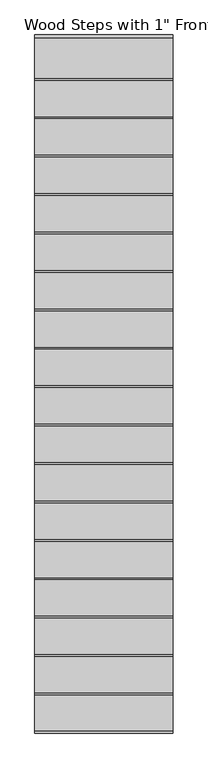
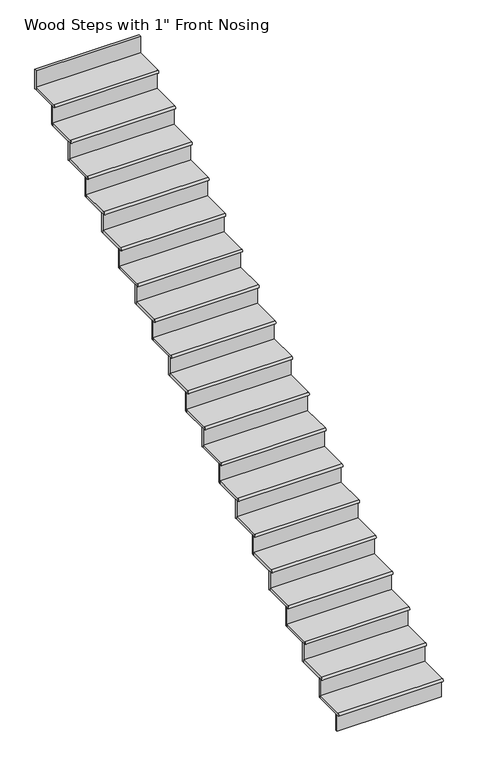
"""IFC4 building model written with IfcOpenShell, lengths in millimetres: stair flight geometry."""

from ifc_helpers import new_model, si_unit, point, frame, frame_2d, origin, place, context, project, spatial, polyline, circle_curve, trimmed, segment, composite_curve, outline, extrude, source, transform, mapped, element, save


def stair_flight_4013ba85(model_context):
    return source(origin(), model_context, "Body", "SweptSolid", [
        extrude(outline(composite_curve([segment(polyline([(-5446.3539462, 196.5157895), (-5179.6539462, 196.5157895), (-5179.6539462, 171.1157895), (-5446.3539462, 171.1157895)]), True, "CONTINUOUS"), segment(trimmed(circle_curve(frame_2d((-5446.3539462, 183.8157895)), 12.7), [point((-5446.3539462, 171.1157895))], [point((-5446.3539462, 196.5157895))], False, "CARTESIAN"), True, "CONTINUOUS")], self_intersect=False)), frame((-11123.1379486, 0.0, 0.0), z_axis=(1.0, 0.0, 0.0), x_axis=(0.0, 1.0, 0.0)), (0.0, 0.0, 1.0), 914.4),
        extrude(outline(polyline([(-10208.7379486, -5414.6039462), (-10208.7379486, -5433.6539462), (-11123.1379486, -5433.6539462), (-11123.1379486, -5414.6039462), (-10208.7379486, -5414.6039462)])), frame((0.0, 0.0, 19.05), z_axis=(0.0, 0.0, 1.0), x_axis=(1.0, 0.0, 0.0)), (0.0, 0.0, 1.0), 152.0657895),
        extrude(outline(polyline([(-10208.7379486, -5160.6039462), (-10208.7379486, -5179.6539462), (-11123.1379486, -5179.6539462), (-11123.1379486, -5160.6039462), (-10208.7379486, -5160.6039462)])), frame((0.0, 0.0, 171.1157895), z_axis=(0.0, 0.0, 1.0), x_axis=(1.0, 0.0, 0.0)), (0.0, 0.0, 1.0), 177.4657895),
        extrude(outline(composite_curve([segment(polyline([(-5192.3539462, 373.9815789), (-4925.6539462, 373.9815789), (-4925.6539462, 348.5815789), (-5192.3539462, 348.5815789)]), True, "CONTINUOUS"), segment(trimmed(circle_curve(frame_2d((-5192.3539462, 361.2815789)), 12.7), [point((-5192.3539462, 348.5815789))], [point((-5192.3539462, 373.9815789))], False, "CARTESIAN"), True, "CONTINUOUS")], self_intersect=False)), frame((-11123.1379486, 0.0, 0.0), z_axis=(1.0, 0.0, 0.0), x_axis=(0.0, 1.0, 0.0)), (0.0, 0.0, 1.0), 914.4),
        extrude(outline(polyline([(-10208.7379486, -4906.6039462), (-10208.7379486, -4925.6539462), (-11123.1379486, -4925.6539462), (-11123.1379486, -4906.6039462), (-10208.7379486, -4906.6039462)])), frame((0.0, 0.0, 348.5815789), z_axis=(0.0, 0.0, 1.0), x_axis=(1.0, 0.0, 0.0)), (0.0, 0.0, 1.0), 177.4657895),
        extrude(outline(composite_curve([segment(polyline([(-4938.3539462, 551.4473684), (-4671.6539462, 551.4473684), (-4671.6539462, 526.0473684), (-4938.3539462, 526.0473684)]), True, "CONTINUOUS"), segment(trimmed(circle_curve(frame_2d((-4938.3539462, 538.7473684)), 12.7), [point((-4938.3539462, 526.0473684))], [point((-4938.3539462, 551.4473684))], False, "CARTESIAN"), True, "CONTINUOUS")], self_intersect=False)), frame((-11123.1379486, 0.0, 0.0), z_axis=(1.0, 0.0, 0.0), x_axis=(0.0, 1.0, 0.0)), (0.0, 0.0, 1.0), 914.4),
        extrude(outline(polyline([(-10208.7379486, -4652.6039462), (-10208.7379486, -4671.6539462), (-11123.1379486, -4671.6539462), (-11123.1379486, -4652.6039462), (-10208.7379486, -4652.6039462)])), frame((0.0, 0.0, 526.0473684), z_axis=(0.0, 0.0, 1.0), x_axis=(1.0, 0.0, 0.0)), (0.0, 0.0, 1.0), 177.4657895),
        extrude(outline(composite_curve([segment(polyline([(-4684.3539462, 728.9131579), (-4417.6539462, 728.9131579), (-4417.6539462, 703.5131579), (-4684.3539462, 703.5131579)]), True, "CONTINUOUS"), segment(trimmed(circle_curve(frame_2d((-4684.3539462, 716.2131579)), 12.7), [point((-4684.3539462, 703.5131579))], [point((-4684.3539462, 728.9131579))], False, "CARTESIAN"), True, "CONTINUOUS")], self_intersect=False)), frame((-11123.1379486, 0.0, 0.0), z_axis=(1.0, 0.0, 0.0), x_axis=(0.0, 1.0, 0.0)), (0.0, 0.0, 1.0), 914.4),
        extrude(outline(polyline([(-10208.7379486, -4398.6039462), (-10208.7379486, -4417.6539462), (-11123.1379486, -4417.6539462), (-11123.1379486, -4398.6039462), (-10208.7379486, -4398.6039462)])), frame((0.0, 0.0, 703.5131579), z_axis=(0.0, 0.0, 1.0), x_axis=(1.0, 0.0, 0.0)), (0.0, 0.0, 1.0), 177.4657895),
        extrude(outline(composite_curve([segment(polyline([(-4430.3539462, 906.3789474), (-4163.6539462, 906.3789474), (-4163.6539462, 880.9789474), (-4430.3539462, 880.9789474)]), True, "CONTINUOUS"), segment(trimmed(circle_curve(frame_2d((-4430.3539462, 893.6789474)), 12.7), [point((-4430.3539462, 880.9789474))], [point((-4430.3539462, 906.3789474))], False, "CARTESIAN"), True, "CONTINUOUS")], self_intersect=False)), frame((-11123.1379486, 0.0, 0.0), z_axis=(1.0, 0.0, 0.0), x_axis=(0.0, 1.0, 0.0)), (0.0, 0.0, 1.0), 914.4),
        extrude(outline(polyline([(-10208.7379486, -4144.6039462), (-10208.7379486, -4163.6539462), (-11123.1379486, -4163.6539462), (-11123.1379486, -4144.6039462), (-10208.7379486, -4144.6039462)])), frame((0.0, 0.0, 880.9789474), z_axis=(0.0, 0.0, 1.0), x_axis=(1.0, 0.0, 0.0)), (0.0, 0.0, 1.0), 177.4657895),
        extrude(outline(composite_curve([segment(polyline([(-4176.3539462, 1083.8447368), (-3909.6539462, 1083.8447368), (-3909.6539462, 1058.4447368), (-4176.3539462, 1058.4447368)]), True, "CONTINUOUS"), segment(trimmed(circle_curve(frame_2d((-4176.3539462, 1071.1447368)), 12.7), [point((-4176.3539462, 1058.4447368))], [point((-4176.3539462, 1083.8447368))], False, "CARTESIAN"), True, "CONTINUOUS")], self_intersect=False)), frame((-11123.1379486, 0.0, 0.0), z_axis=(1.0, 0.0, 0.0), x_axis=(0.0, 1.0, 0.0)), (0.0, 0.0, 1.0), 914.4),
        extrude(outline(polyline([(-10208.7379486, -3890.6039462), (-10208.7379486, -3909.6539462), (-11123.1379486, -3909.6539462), (-11123.1379486, -3890.6039462), (-10208.7379486, -3890.6039462)])), frame((0.0, 0.0, 1058.4447368), z_axis=(0.0, 0.0, 1.0), x_axis=(1.0, 0.0, 0.0)), (0.0, 0.0, 1.0), 177.4657895),
        extrude(outline(composite_curve([segment(polyline([(-3922.3539462, 1261.3105263), (-3655.6539462, 1261.3105263), (-3655.6539462, 1235.9105263), (-3922.3539462, 1235.9105263)]), True, "CONTINUOUS"), segment(trimmed(circle_curve(frame_2d((-3922.3539462, 1248.6105263)), 12.7), [point((-3922.3539462, 1235.9105263))], [point((-3922.3539462, 1261.3105263))], False, "CARTESIAN"), True, "CONTINUOUS")], self_intersect=False)), frame((-11123.1379486, 0.0, 0.0), z_axis=(1.0, 0.0, 0.0), x_axis=(0.0, 1.0, 0.0)), (0.0, 0.0, 1.0), 914.4),
        extrude(outline(polyline([(-10208.7379486, -3636.6039462), (-10208.7379486, -3655.6539462), (-11123.1379486, -3655.6539462), (-11123.1379486, -3636.6039462), (-10208.7379486, -3636.6039462)])), frame((0.0, 0.0, 1235.9105263), z_axis=(0.0, 0.0, 1.0), x_axis=(1.0, 0.0, 0.0)), (0.0, 0.0, 1.0), 177.4657895),
        extrude(outline(composite_curve([segment(polyline([(-3668.3539462, 1438.7763158), (-3401.6539462, 1438.7763158), (-3401.6539462, 1413.3763158), (-3668.3539462, 1413.3763158)]), True, "CONTINUOUS"), segment(trimmed(circle_curve(frame_2d((-3668.3539462, 1426.0763158)), 12.7), [point((-3668.3539462, 1413.3763158))], [point((-3668.3539462, 1438.7763158))], False, "CARTESIAN"), True, "CONTINUOUS")], self_intersect=False)), frame((-11123.1379486, 0.0, 0.0), z_axis=(1.0, 0.0, 0.0), x_axis=(0.0, 1.0, 0.0)), (0.0, 0.0, 1.0), 914.4),
        extrude(outline(polyline([(-10208.7379486, -3382.6039462), (-10208.7379486, -3401.6539462), (-11123.1379486, -3401.6539462), (-11123.1379486, -3382.6039462), (-10208.7379486, -3382.6039462)])), frame((0.0, 0.0, 1413.3763158), z_axis=(0.0, 0.0, 1.0), x_axis=(1.0, 0.0, 0.0)), (0.0, 0.0, 1.0), 177.4657895),
        extrude(outline(composite_curve([segment(polyline([(-3414.3539462, 1616.2421053), (-3147.6539462, 1616.2421053), (-3147.6539462, 1590.8421053), (-3414.3539462, 1590.8421053)]), True, "CONTINUOUS"), segment(trimmed(circle_curve(frame_2d((-3414.3539462, 1603.5421053)), 12.7), [point((-3414.3539462, 1590.8421053))], [point((-3414.3539462, 1616.2421053))], False, "CARTESIAN"), True, "CONTINUOUS")], self_intersect=False)), frame((-11123.1379486, 0.0, 0.0), z_axis=(1.0, 0.0, 0.0), x_axis=(0.0, 1.0, 0.0)), (0.0, 0.0, 1.0), 914.4),
        extrude(outline(polyline([(-10208.7379486, -3128.6039462), (-10208.7379486, -3147.6539462), (-11123.1379486, -3147.6539462), (-11123.1379486, -3128.6039462), (-10208.7379486, -3128.6039462)])), frame((0.0, 0.0, 1590.8421053), z_axis=(0.0, 0.0, 1.0), x_axis=(1.0, 0.0, 0.0)), (0.0, 0.0, 1.0), 177.4657895),
        extrude(outline(composite_curve([segment(polyline([(-3160.3539462, 1793.7078947), (-2893.6539462, 1793.7078947), (-2893.6539462, 1768.3078947), (-3160.3539462, 1768.3078947)]), True, "CONTINUOUS"), segment(trimmed(circle_curve(frame_2d((-3160.3539462, 1781.0078947)), 12.7), [point((-3160.3539462, 1768.3078947))], [point((-3160.3539462, 1793.7078947))], False, "CARTESIAN"), True, "CONTINUOUS")], self_intersect=False)), frame((-11123.1379486, 0.0, 0.0), z_axis=(1.0, 0.0, 0.0), x_axis=(0.0, 1.0, 0.0)), (0.0, 0.0, 1.0), 914.4),
        extrude(outline(polyline([(-10208.7379486, -2874.6039462), (-10208.7379486, -2893.6539462), (-11123.1379486, -2893.6539462), (-11123.1379486, -2874.6039462), (-10208.7379486, -2874.6039462)])), frame((0.0, 0.0, 1768.3078947), z_axis=(0.0, 0.0, 1.0), x_axis=(1.0, 0.0, 0.0)), (0.0, 0.0, 1.0), 177.4657895),
        extrude(outline(composite_curve([segment(polyline([(-2906.3539462, 1971.1736842), (-2639.6539462, 1971.1736842), (-2639.6539462, 1945.7736842), (-2906.3539462, 1945.7736842)]), True, "CONTINUOUS"), segment(trimmed(circle_curve(frame_2d((-2906.3539462, 1958.4736842)), 12.7), [point((-2906.3539462, 1945.7736842))], [point((-2906.3539462, 1971.1736842))], False, "CARTESIAN"), True, "CONTINUOUS")], self_intersect=False)), frame((-11123.1379486, 0.0, 0.0), z_axis=(1.0, 0.0, 0.0), x_axis=(0.0, 1.0, 0.0)), (0.0, 0.0, 1.0), 914.4),
        extrude(outline(polyline([(-10208.7379486, -2620.6039462), (-10208.7379486, -2639.6539462), (-11123.1379486, -2639.6539462), (-11123.1379486, -2620.6039462), (-10208.7379486, -2620.6039462)])), frame((0.0, 0.0, 1945.7736842), z_axis=(0.0, 0.0, 1.0), x_axis=(1.0, 0.0, 0.0)), (0.0, 0.0, 1.0), 177.4657895),
        extrude(outline(composite_curve([segment(polyline([(-2652.3539462, 2148.6394737), (-2385.6539462, 2148.6394737), (-2385.6539462, 2123.2394737), (-2652.3539462, 2123.2394737)]), True, "CONTINUOUS"), segment(trimmed(circle_curve(frame_2d((-2652.3539462, 2135.9394737)), 12.7), [point((-2652.3539462, 2123.2394737))], [point((-2652.3539462, 2148.6394737))], False, "CARTESIAN"), True, "CONTINUOUS")], self_intersect=False)), frame((-11123.1379486, 0.0, 0.0), z_axis=(1.0, 0.0, 0.0), x_axis=(0.0, 1.0, 0.0)), (0.0, 0.0, 1.0), 914.4),
        extrude(outline(polyline([(-10208.7379486, -2366.6039462), (-10208.7379486, -2385.6539462), (-11123.1379486, -2385.6539462), (-11123.1379486, -2366.6039462), (-10208.7379486, -2366.6039462)])), frame((0.0, 0.0, 2123.2394737), z_axis=(0.0, 0.0, 1.0), x_axis=(1.0, 0.0, 0.0)), (0.0, 0.0, 1.0), 177.4657895),
        extrude(outline(composite_curve([segment(polyline([(-2398.3539462, 2326.1052632), (-2131.6539462, 2326.1052632), (-2131.6539462, 2300.7052632), (-2398.3539462, 2300.7052632)]), True, "CONTINUOUS"), segment(trimmed(circle_curve(frame_2d((-2398.3539462, 2313.4052632)), 12.7), [point((-2398.3539462, 2300.7052632))], [point((-2398.3539462, 2326.1052632))], False, "CARTESIAN"), True, "CONTINUOUS")], self_intersect=False)), frame((-11123.1379486, 0.0, 0.0), z_axis=(1.0, 0.0, 0.0), x_axis=(0.0, 1.0, 0.0)), (0.0, 0.0, 1.0), 914.4),
        extrude(outline(polyline([(-10208.7379486, -2112.6039462), (-10208.7379486, -2131.6539462), (-11123.1379486, -2131.6539462), (-11123.1379486, -2112.6039462), (-10208.7379486, -2112.6039462)])), frame((0.0, 0.0, 2300.7052632), z_axis=(0.0, 0.0, 1.0), x_axis=(1.0, 0.0, 0.0)), (0.0, 0.0, 1.0), 177.4657895),
        extrude(outline(composite_curve([segment(polyline([(-2144.3539462, 2503.5710526), (-1877.6539462, 2503.5710526), (-1877.6539462, 2478.1710526), (-2144.3539462, 2478.1710526)]), True, "CONTINUOUS"), segment(trimmed(circle_curve(frame_2d((-2144.3539462, 2490.8710526)), 12.7), [point((-2144.3539462, 2478.1710526))], [point((-2144.3539462, 2503.5710526))], False, "CARTESIAN"), True, "CONTINUOUS")], self_intersect=False)), frame((-11123.1379486, 0.0, 0.0), z_axis=(1.0, 0.0, 0.0), x_axis=(0.0, 1.0, 0.0)), (0.0, 0.0, 1.0), 914.4),
        extrude(outline(polyline([(-10208.7379486, -1858.6039462), (-10208.7379486, -1877.6539462), (-11123.1379486, -1877.6539462), (-11123.1379486, -1858.6039462), (-10208.7379486, -1858.6039462)])), frame((0.0, 0.0, 2478.1710526), z_axis=(0.0, 0.0, 1.0), x_axis=(1.0, 0.0, 0.0)), (0.0, 0.0, 1.0), 177.4657895),
        extrude(outline(composite_curve([segment(polyline([(-1890.3539462, 2681.0368421), (-1623.6539462, 2681.0368421), (-1623.6539462, 2655.6368421), (-1890.3539462, 2655.6368421)]), True, "CONTINUOUS"), segment(trimmed(circle_curve(frame_2d((-1890.3539462, 2668.3368421)), 12.7), [point((-1890.3539462, 2655.6368421))], [point((-1890.3539462, 2681.0368421))], False, "CARTESIAN"), True, "CONTINUOUS")], self_intersect=False)), frame((-11123.1379486, 0.0, 0.0), z_axis=(1.0, 0.0, 0.0), x_axis=(0.0, 1.0, 0.0)), (0.0, 0.0, 1.0), 914.4),
        extrude(outline(polyline([(-10208.7379486, -1604.6039462), (-10208.7379486, -1623.6539462), (-11123.1379486, -1623.6539462), (-11123.1379486, -1604.6039462), (-10208.7379486, -1604.6039462)])), frame((0.0, 0.0, 2655.6368421), z_axis=(0.0, 0.0, 1.0), x_axis=(1.0, 0.0, 0.0)), (0.0, 0.0, 1.0), 177.4657895),
        extrude(outline(composite_curve([segment(polyline([(-1636.3539462, 2858.5026316), (-1369.6539462, 2858.5026316), (-1369.6539462, 2833.1026316), (-1636.3539462, 2833.1026316)]), True, "CONTINUOUS"), segment(trimmed(circle_curve(frame_2d((-1636.3539462, 2845.8026316)), 12.7), [point((-1636.3539462, 2833.1026316))], [point((-1636.3539462, 2858.5026316))], False, "CARTESIAN"), True, "CONTINUOUS")], self_intersect=False)), frame((-11123.1379486, 0.0, 0.0), z_axis=(1.0, 0.0, 0.0), x_axis=(0.0, 1.0, 0.0)), (0.0, 0.0, 1.0), 914.4),
        extrude(outline(polyline([(-10208.7379486, -1350.6039462), (-10208.7379486, -1369.6539462), (-11123.1379486, -1369.6539462), (-11123.1379486, -1350.6039462), (-10208.7379486, -1350.6039462)])), frame((0.0, 0.0, 2833.1026316), z_axis=(0.0, 0.0, 1.0), x_axis=(1.0, 0.0, 0.0)), (0.0, 0.0, 1.0), 177.4657895),
        extrude(outline(composite_curve([segment(polyline([(-1382.3539462, 3035.9684211), (-1115.6539462, 3035.9684211), (-1115.6539462, 3010.5684211), (-1382.3539462, 3010.5684211)]), True, "CONTINUOUS"), segment(trimmed(circle_curve(frame_2d((-1382.3539462, 3023.2684211)), 12.7), [point((-1382.3539462, 3010.5684211))], [point((-1382.3539462, 3035.9684211))], False, "CARTESIAN"), True, "CONTINUOUS")], self_intersect=False)), frame((-11123.1379486, 0.0, 0.0), z_axis=(1.0, 0.0, 0.0), x_axis=(0.0, 1.0, 0.0)), (0.0, 0.0, 1.0), 914.4),
        extrude(outline(polyline([(-10208.7379486, -1096.6039462), (-10208.7379486, -1115.6539462), (-11123.1379486, -1115.6539462), (-11123.1379486, -1096.6039462), (-10208.7379486, -1096.6039462)])), frame((0.0, 0.0, 3010.5684211), z_axis=(0.0, 0.0, 1.0), x_axis=(1.0, 0.0, 0.0)), (0.0, 0.0, 1.0), 177.4657895),
        extrude(outline(polyline([(-10208.7379486, -842.6039462), (-10208.7379486, -861.6539462), (-11123.1379486, -861.6539462), (-11123.1379486, -842.6039462), (-10208.7379486, -842.6039462)])), frame((0.0, 0.0, 3188.0342105), z_axis=(0.0, 0.0, 1.0), x_axis=(1.0, 0.0, 0.0)), (0.0, 0.0, 1.0), 177.4657895),
        extrude(outline(composite_curve([segment(polyline([(-1128.3539462, 3213.4342105), (-861.6539462, 3213.4342105), (-861.6539462, 3188.0342105), (-1128.3539462, 3188.0342105)]), True, "CONTINUOUS"), segment(trimmed(circle_curve(frame_2d((-1128.3539462, 3200.7342105)), 12.7), [point((-1128.3539462, 3188.0342105))], [point((-1128.3539462, 3213.4342105))], False, "CARTESIAN"), True, "CONTINUOUS")], self_intersect=False)), frame((-11123.1379486, 0.0, 0.0), z_axis=(1.0, 0.0, 0.0), x_axis=(0.0, 1.0, 0.0)), (0.0, 0.0, 1.0), 914.4),
    ])


if __name__ == "__main__":
    model = new_model("IFC4")
    model_context = context("Model", 3, world=origin())
    ifc_project = project(units=[si_unit("LENGTHUNIT", "METRE", prefix="MILLI")], contexts=[model_context])
    site = spatial("IfcSite", under=ifc_project)
    building = spatial("IfcBuilding", under=site)
    placement = place(None, origin())
    stair_flight_shape = stair_flight_4013ba85(model_context)
    element("IfcStairFlight", 1, ObjectType="Wood Steps with 1\" Front Nosing", at=placement, inside=building, context=model_context, shape_type="MappedRepresentation", body=[
        mapped(stair_flight_shape, transform((0.0, 0.0, 0.0), x_axis=(1.0, 0.0, 0.0), y_axis=(0.0, 1.0, 0.0), z_axis=(0.0, 0.0, 1.0))),
    ])
    save(model, "model.ifc")
